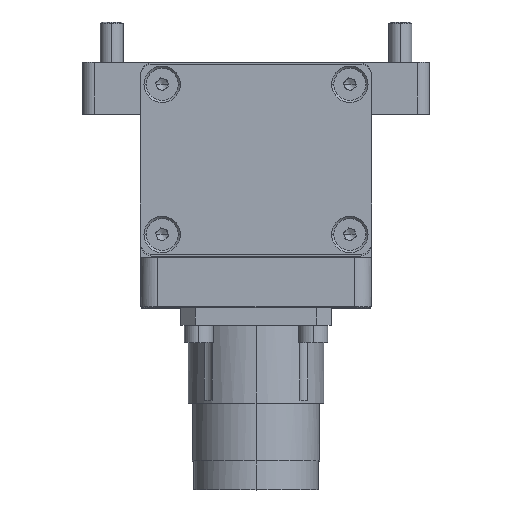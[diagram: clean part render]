
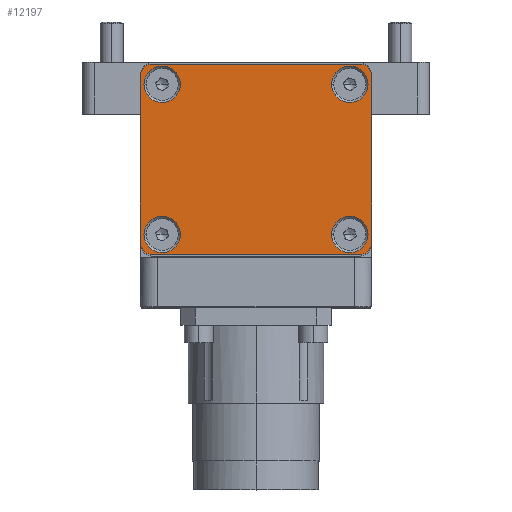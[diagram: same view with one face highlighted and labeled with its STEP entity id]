
A CAD part, top view. The second image highlights one B-rep face of the part: STEP entity #12197.
In plain terms, the highlighted planar face has unit normal (0, 0, 1).
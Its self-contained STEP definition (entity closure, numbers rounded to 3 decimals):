
#38 = DIRECTION ( 'NONE',  ( 0., -1., 0. ) ) ;
#392 = EDGE_CURVE ( 'NONE', #18246, #13221, #8654, .T. ) ;
#520 = DIRECTION ( 'NONE',  ( 0., 1., 0. ) ) ;
#966 = AXIS2_PLACEMENT_3D ( 'NONE', #5234, #18965, #7220 ) ;
#999 = AXIS2_PLACEMENT_3D ( 'NONE', #3876, #17603, #5857 ) ;
#1091 = CIRCLE ( 'NONE', #999, 3.15 ) ;
#1130 = CARTESIAN_POINT ( 'NONE',  ( -11.937, -2.257, 16.9 ) ) ;
#1135 = CARTESIAN_POINT ( 'NONE',  ( -11.937, -4.257, 16.9 ) ) ;
#1181 = ORIENTED_EDGE ( 'NONE', *, *, #23582, .F. ) ;
#1525 = CARTESIAN_POINT ( 'NONE',  ( -10.537, 25.243, 16.9 ) ) ;
#1679 = CARTESIAN_POINT ( 'NONE',  ( -43.037, 25.243, 16.9 ) ) ;
#1730 = CARTESIAN_POINT ( 'NONE',  ( -49.937, 12.243, 16.9 ) ) ;
#1846 = DIRECTION ( 'NONE',  ( 1., 0., 0. ) ) ;
#2081 = DIRECTION ( 'NONE',  ( -1., 0., 0. ) ) ;
#2169 = FACE_BOUND ( 'NONE', #17372, .T. ) ;
#2318 = DIRECTION ( 'NONE',  ( 0., 0., -1. ) ) ;
#2340 = CARTESIAN_POINT ( 'NONE',  ( -47.937, -2.257, 16.9 ) ) ;
#2811 = CARTESIAN_POINT ( 'NONE',  ( -47.937, 26.743, 16.9 ) ) ;
#2848 = EDGE_CURVE ( 'NONE', #14661, #13965, #17494, .T. ) ;
#2915 = CARTESIAN_POINT ( 'NONE',  ( -10.537, -0.757, 16.9 ) ) ;
#3139 = CARTESIAN_POINT ( 'NONE',  ( -9.937, -2.257, 16.9 ) ) ;
#3154 = DIRECTION ( 'NONE',  ( 1., 0., 0. ) ) ;
#3199 = ORIENTED_EDGE ( 'NONE', *, *, #392, .F. ) ;
#3202 = CARTESIAN_POINT ( 'NONE',  ( -47.937, -4.257, 16.9 ) ) ;
#3666 = EDGE_CURVE ( 'NONE', #25574, #15129, #24371, .T. ) ;
#3850 = ORIENTED_EDGE ( 'NONE', *, *, #2848, .T. ) ;
#3876 = CARTESIAN_POINT ( 'NONE',  ( -13.687, 25.243, 16.9 ) ) ;
#3929 = EDGE_CURVE ( 'NONE', #8485, #16921, #4247, .T. ) ;
#3986 = EDGE_CURVE ( 'NONE', #5429, #24818, #18055, .T. ) ;
#4004 = CIRCLE ( 'NONE', #8803, 3.15 ) ;
#4054 = VECTOR ( 'NONE', #21404, 1000. ) ;
#4205 = CARTESIAN_POINT ( 'NONE',  ( -29.937, -4.257, 16.9 ) ) ;
#4247 = CIRCLE ( 'NONE', #7919, 2. ) ;
#4462 = DIRECTION ( 'NONE',  ( 0., 0., -1. ) ) ;
#4695 = DIRECTION ( 'NONE',  ( 0., 0., -1. ) ) ;
#4816 = DIRECTION ( 'NONE',  ( 1., 0., 0. ) ) ;
#5055 = AXIS2_PLACEMENT_3D ( 'NONE', #20174, #12385, #520 ) ;
#5234 = CARTESIAN_POINT ( 'NONE',  ( -46.187, 25.243, 16.9 ) ) ;
#5278 = CIRCLE ( 'NONE', #20819, 3.15 ) ;
#5429 = VERTEX_POINT ( 'NONE', #1135 ) ;
#5456 = EDGE_CURVE ( 'NONE', #9324, #18725, #5469, .T. ) ;
#5468 = ORIENTED_EDGE ( 'NONE', *, *, #12070, .F. ) ;
#5469 = CIRCLE ( 'NONE', #966, 3.15 ) ;
#5789 = CIRCLE ( 'NONE', #25167, 3.15 ) ;
#5823 = ORIENTED_EDGE ( 'NONE', *, *, #24497, .T. ) ;
#5857 = DIRECTION ( 'NONE',  ( 1., 0., 0. ) ) ;
#6333 = VERTEX_POINT ( 'NONE', #25730 ) ;
#6361 = CARTESIAN_POINT ( 'NONE',  ( -46.187, -0.757, 16.9 ) ) ;
#6473 = CARTESIAN_POINT ( 'NONE',  ( -47.937, 28.743, 16.9 ) ) ;
#6877 = VECTOR ( 'NONE', #22497, 1000. ) ;
#7220 = DIRECTION ( 'NONE',  ( 1., 0., 0. ) ) ;
#7447 = FACE_BOUND ( 'NONE', #22710, .T. ) ;
#7746 = VECTOR ( 'NONE', #38, 1000. ) ;
#7916 = EDGE_CURVE ( 'NONE', #15129, #25574, #1091, .T. ) ;
#7919 = AXIS2_PLACEMENT_3D ( 'NONE', #2811, #16570, #4816 ) ;
#7932 = VERTEX_POINT ( 'NONE', #15636 ) ;
#8075 = FACE_BOUND ( 'NONE', #18229, .T. ) ;
#8346 = DIRECTION ( 'NONE',  ( 1., 0., 0. ) ) ;
#8485 = VERTEX_POINT ( 'NONE', #25087 ) ;
#8611 = DIRECTION ( 'NONE',  ( 0., 0., -1. ) ) ;
#8654 = CIRCLE ( 'NONE', #18564, 2. ) ;
#8803 = AXIS2_PLACEMENT_3D ( 'NONE', #25590, #13687, #1846 ) ;
#8946 = CARTESIAN_POINT ( 'NONE',  ( -13.687, -0.757, 16.9 ) ) ;
#9324 = VERTEX_POINT ( 'NONE', #22388 ) ;
#9421 = EDGE_LOOP ( 'NONE', ( #22233, #11881 ) ) ;
#9735 = AXIS2_PLACEMENT_3D ( 'NONE', #22396, #8611, #20376 ) ;
#9954 = CARTESIAN_POINT ( 'NONE',  ( -16.837, 25.243, 16.9 ) ) ;
#10877 = CIRCLE ( 'NONE', #15240, 3.15 ) ;
#10940 = DIRECTION ( 'NONE',  ( 1., 0., 0. ) ) ;
#11225 = ORIENTED_EDGE ( 'NONE', *, *, #23644, .T. ) ;
#11615 = EDGE_CURVE ( 'NONE', #18725, #9324, #10877, .T. ) ;
#11619 = AXIS2_PLACEMENT_3D ( 'NONE', #16458, #4695, #18408 ) ;
#11881 = ORIENTED_EDGE ( 'NONE', *, *, #7916, .T. ) ;
#12070 = EDGE_CURVE ( 'NONE', #13221, #8485, #19731, .T. ) ;
#12197 = ADVANCED_FACE ( 'NONE', ( #17867, #7447, #22560, #2169, #8075 ), #22193, .T. ) ;
#12385 = DIRECTION ( 'NONE',  ( 0., 0., 1. ) ) ;
#12715 = CARTESIAN_POINT ( 'NONE',  ( -49.937, -2.257, 16.9 ) ) ;
#12721 = ORIENTED_EDGE ( 'NONE', *, *, #11615, .T. ) ;
#12757 = LINE ( 'NONE', #20483, #6877 ) ;
#13027 = ORIENTED_EDGE ( 'NONE', *, *, #3986, .T. ) ;
#13221 = VERTEX_POINT ( 'NONE', #12715 ) ;
#13687 = DIRECTION ( 'NONE',  ( 0., 0., -1. ) ) ;
#13909 = CARTESIAN_POINT ( 'NONE',  ( -11.937, 26.743, 16.9 ) ) ;
#13954 = DIRECTION ( 'NONE',  ( -1., 0., 0. ) ) ;
#13965 = VERTEX_POINT ( 'NONE', #17161 ) ;
#13983 = DIRECTION ( 'NONE',  ( 0., 0., 1. ) ) ;
#14661 = VERTEX_POINT ( 'NONE', #19928 ) ;
#14814 = LINE ( 'NONE', #15815, #7746 ) ;
#14941 = DIRECTION ( 'NONE',  ( 0., 0., 1. ) ) ;
#15129 = VERTEX_POINT ( 'NONE', #9954 ) ;
#15237 = EDGE_LOOP ( 'NONE', ( #1181, #3850, #18445, #17488, #5468, #3199, #11225, #13027 ) ) ;
#15240 = AXIS2_PLACEMENT_3D ( 'NONE', #16219, #4462, #18185 ) ;
#15636 = CARTESIAN_POINT ( 'NONE',  ( -16.837, -0.757, 16.9 ) ) ;
#15815 = CARTESIAN_POINT ( 'NONE',  ( -9.937, 12.243, 16.9 ) ) ;
#16219 = CARTESIAN_POINT ( 'NONE',  ( -46.187, 25.243, 16.9 ) ) ;
#16263 = EDGE_CURVE ( 'NONE', #19953, #7932, #5789, .T. ) ;
#16458 = CARTESIAN_POINT ( 'NONE',  ( -13.687, -0.757, 16.9 ) ) ;
#16570 = DIRECTION ( 'NONE',  ( 0., 0., -1. ) ) ;
#16921 = VERTEX_POINT ( 'NONE', #6473 ) ;
#17161 = CARTESIAN_POINT ( 'NONE',  ( -11.937, 28.743, 16.9 ) ) ;
#17187 = CIRCLE ( 'NONE', #11619, 3.15 ) ;
#17372 = EDGE_LOOP ( 'NONE', ( #23807, #22505 ) ) ;
#17488 = ORIENTED_EDGE ( 'NONE', *, *, #3929, .F. ) ;
#17494 = CIRCLE ( 'NONE', #20415, 2. ) ;
#17603 = DIRECTION ( 'NONE',  ( 0., 0., -1. ) ) ;
#17867 = FACE_OUTER_BOUND ( 'NONE', #15237, .T. ) ;
#17930 = DIRECTION ( 'NONE',  ( 1., 0., 0. ) ) ;
#18055 = CIRCLE ( 'NONE', #18423, 2. ) ;
#18185 = DIRECTION ( 'NONE',  ( 1., 0., 0. ) ) ;
#18229 = EDGE_LOOP ( 'NONE', ( #5823, #23355 ) ) ;
#18246 = VERTEX_POINT ( 'NONE', #3202 ) ;
#18408 = DIRECTION ( 'NONE',  ( 1., 0., 0. ) ) ;
#18423 = AXIS2_PLACEMENT_3D ( 'NONE', #1130, #14941, #3154 ) ;
#18445 = ORIENTED_EDGE ( 'NONE', *, *, #21809, .T. ) ;
#18564 = AXIS2_PLACEMENT_3D ( 'NONE', #2340, #2318, #2081 ) ;
#18725 = VERTEX_POINT ( 'NONE', #1679 ) ;
#18965 = DIRECTION ( 'NONE',  ( 0., 0., -1. ) ) ;
#19731 = LINE ( 'NONE', #1730, #4054 ) ;
#19928 = CARTESIAN_POINT ( 'NONE',  ( -9.937, 26.743, 16.9 ) ) ;
#19953 = VERTEX_POINT ( 'NONE', #2915 ) ;
#19966 = ORIENTED_EDGE ( 'NONE', *, *, #5456, .T. ) ;
#20109 = DIRECTION ( 'NONE',  ( 0., 0., -1. ) ) ;
#20174 = CARTESIAN_POINT ( 'NONE',  ( -9.937, -4.257, 16.9 ) ) ;
#20376 = DIRECTION ( 'NONE',  ( 1., 0., 0. ) ) ;
#20415 = AXIS2_PLACEMENT_3D ( 'NONE', #13909, #13983, #13954 ) ;
#20483 = CARTESIAN_POINT ( 'NONE',  ( -29.937, 28.743, 16.9 ) ) ;
#20819 = AXIS2_PLACEMENT_3D ( 'NONE', #6361, #20109, #8346 ) ;
#21404 = DIRECTION ( 'NONE',  ( 0., 1., 0. ) ) ;
#21608 = VECTOR ( 'NONE', #17930, 1000. ) ;
#21809 = EDGE_CURVE ( 'NONE', #13965, #16921, #12757, .T. ) ;
#22193 = PLANE ( 'NONE',  #5055 ) ;
#22233 = ORIENTED_EDGE ( 'NONE', *, *, #3666, .T. ) ;
#22241 = LINE ( 'NONE', #4205, #21608 ) ;
#22388 = CARTESIAN_POINT ( 'NONE',  ( -49.337, 25.243, 16.9 ) ) ;
#22396 = CARTESIAN_POINT ( 'NONE',  ( -13.687, 25.243, 16.9 ) ) ;
#22475 = VERTEX_POINT ( 'NONE', #25576 ) ;
#22497 = DIRECTION ( 'NONE',  ( -1., 0., 0. ) ) ;
#22505 = ORIENTED_EDGE ( 'NONE', *, *, #25253, .T. ) ;
#22560 = FACE_BOUND ( 'NONE', #9421, .T. ) ;
#22710 = EDGE_LOOP ( 'NONE', ( #12721, #19966 ) ) ;
#22742 = DIRECTION ( 'NONE',  ( 0., 0., -1. ) ) ;
#23355 = ORIENTED_EDGE ( 'NONE', *, *, #23701, .T. ) ;
#23582 = EDGE_CURVE ( 'NONE', #14661, #24818, #14814, .T. ) ;
#23644 = EDGE_CURVE ( 'NONE', #18246, #5429, #22241, .T. ) ;
#23701 = EDGE_CURVE ( 'NONE', #6333, #22475, #5278, .T. ) ;
#23807 = ORIENTED_EDGE ( 'NONE', *, *, #16263, .T. ) ;
#24371 = CIRCLE ( 'NONE', #9735, 3.15 ) ;
#24497 = EDGE_CURVE ( 'NONE', #22475, #6333, #4004, .T. ) ;
#24818 = VERTEX_POINT ( 'NONE', #3139 ) ;
#25087 = CARTESIAN_POINT ( 'NONE',  ( -49.937, 26.743, 16.9 ) ) ;
#25167 = AXIS2_PLACEMENT_3D ( 'NONE', #8946, #22742, #10940 ) ;
#25253 = EDGE_CURVE ( 'NONE', #7932, #19953, #17187, .T. ) ;
#25574 = VERTEX_POINT ( 'NONE', #1525 ) ;
#25576 = CARTESIAN_POINT ( 'NONE',  ( -43.037, -0.757, 16.9 ) ) ;
#25590 = CARTESIAN_POINT ( 'NONE',  ( -46.187, -0.757, 16.9 ) ) ;
#25730 = CARTESIAN_POINT ( 'NONE',  ( -49.337, -0.757, 16.9 ) ) ;
